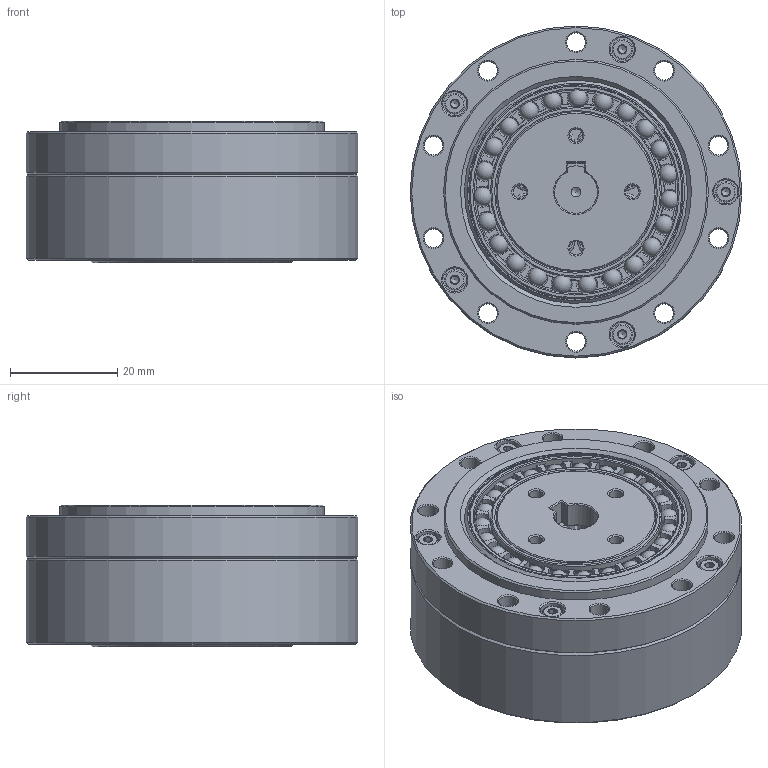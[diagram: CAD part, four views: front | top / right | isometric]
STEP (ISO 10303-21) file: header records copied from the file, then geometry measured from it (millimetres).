
FILE_DESCRIPTION(/* description */ (''),/* implementation_level */ '2;1');
FILE_NAME(/* name */ 'LSD-17-XX-U-I-φ8.stp',/* time_stamp */ '2023-07-03T09:26:44+08:00',/* author */ (''),/* organization */ (''),/* preprocessor_version */ 'ST-DEVELOPER v16.7',/* originating_system */ 'SIEMENS PLM Software NX 12.0',/* authorisation */ '');
FILE_SCHEMA (('AUTOMOTIVE_DESIGN { 1 0 10303 214 3 1 1 1 }'));
Length unit declared in the file: millimetre
Products named in the file (12): EB304006-17KD-01; EB304006-17KC-46; TC-38x47x4; O-50x0.5; GB-T70.1-2000,M4x8; GB-T70.1-2000,M2x10; 发生器LSD-17-φ8; 柔轮LSD-17; 刚轮LSD-17; EB304006-17KD; 交叉轴承LSD-17; LSD-17-XX-U-I-φ8
Assembly tree (22 placements, depth 3):
  LSD-17-XX-U-I-φ8
    交叉轴承LSD-17
      TC-38x47x4
    刚轮LSD-17
    柔轮LSD-17
    EB304006-17KD
      EB304006-17KC-46
      EB304006-17KD-01
    发生器LSD-17-φ8
    GB-T70.1-2000,M2x10  x5
    GB-T70.1-2000,M4x8  x8
    O-50x0.5
Bounding box: 62 x 62 x 26.5 mm (x, y, z)
Volume: 58090.1 mm3; surface area: 43344.4 mm2
Topology: 46 solids, 46 shells, 847 faces, 1890 edges, 1128 vertices
Faces by surface type: plane 296, cone 253, cylinder 178, torus 96, sphere 23, revolution 1
Full cylindrical faces by diameter (mm): 1.6 x5, 1.886 x5, 2.5 x9, 3.3 x8, 3.5 x20, 3.8 x5, 3.838 x8, 4.2 x8, 4.5 x13, 7 x8, 9.8 x1, 11 x2, 14 x1, 26 x1, 29 x1, 30 x2, 31.88 x2, 32 x1, 33 x1, 34 x1, 37.3 x1, 37.6 x1, 37.857 x1, 38 x2, 38.16 x2, 40 x2, 40.58 x1, 41.545 x1, 41.703 x1, 42.1 x2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
Entity records: 15526 total; most frequent: CARTESIAN_POINT 3705, DIRECTION 2549, ORIENTED_EDGE 1772, AXIS2_PLACEMENT_3D 1200, EDGE_LOOP 934, EDGE_CURVE 886, FACE_BOUND 795, VERTEX_POINT 749
